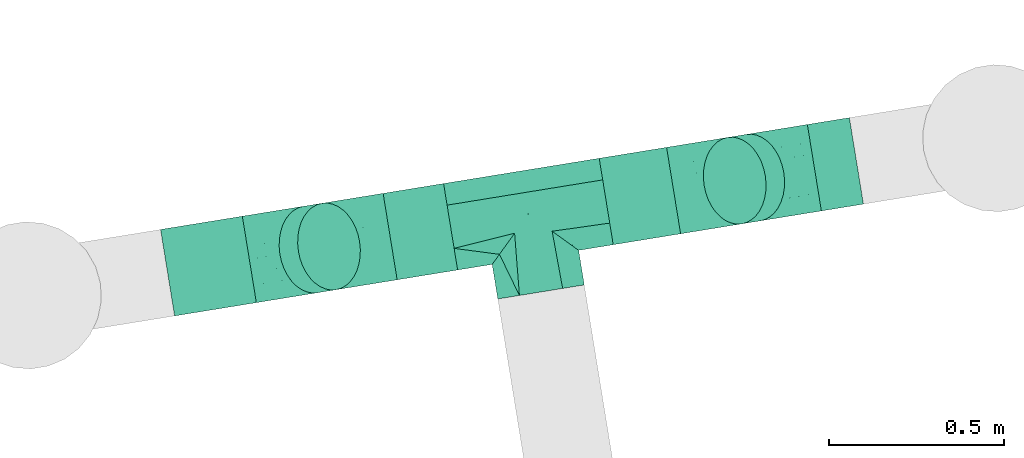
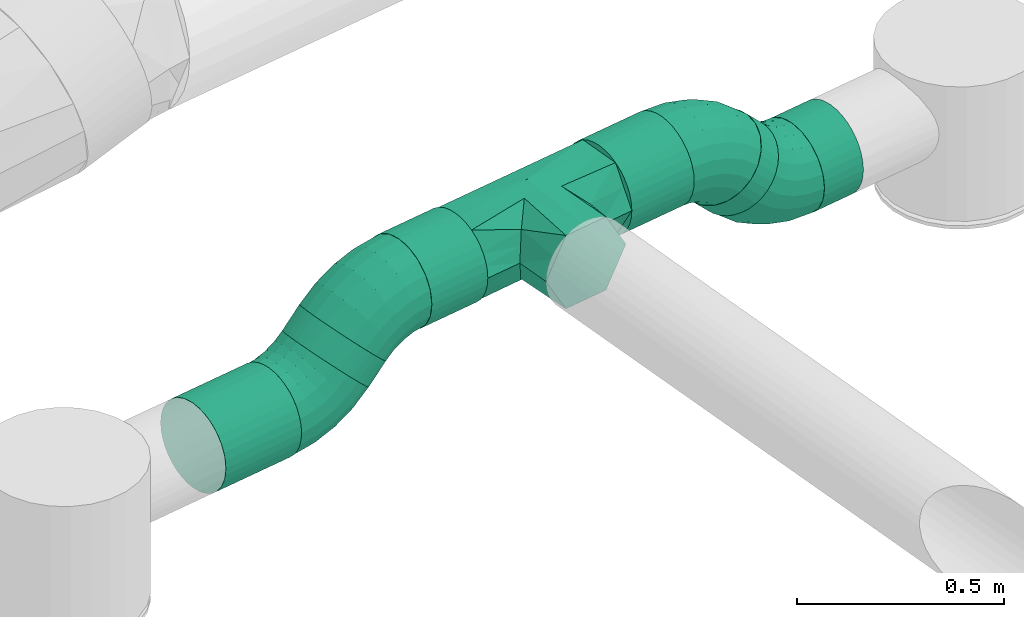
# One storey, part 24 of 39: 6 flow segments, 5 flow fittings.
"""IFC2X3 building model written with IfcOpenShell, lengths in millimetres."""

from ifc_helpers import new_model, entity, si_unit, converted_unit, derived_unit, direction, frame, frame_2d, origin, origin_with_axes, origin_2d_with_axis, place, context, subcontext, project, spatial, circle, extrude, faceted_brep, source, transform, mapped, material, type_object, element, save


model = new_model("IFC2X3")

# Units and contexts
model_context = context("Model", 3, precision=0.01, world=origin(), true_north=direction((6.12323399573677e-17, 1.0)))
plan_context = context("Plan", 3, precision=1e-05, world=origin_with_axes())
body_context = subcontext(model_context, "Body", "Model", "MODEL_VIEW")
ifc_project = project(units=[converted_unit("PLANEANGLEUNIT", "DEGREE", entity("IfcPositiveLengthMeasure", 0.0174532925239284), si_unit("PLANEANGLEUNIT", "RADIAN"), dimensions=[0, 0, 0, 0, 0, 0, 0]), si_unit("AREAUNIT", "SQUARE_METRE"), si_unit("LENGTHUNIT", "METRE", prefix="MILLI"), si_unit("MASSUNIT", "GRAM", prefix="KILO"), si_unit("POWERUNIT", "WATT"), si_unit("PRESSUREUNIT", "PASCAL", prefix="KILO"), si_unit("FORCEUNIT", "NEWTON", prefix="KILO"), si_unit("ELECTRICVOLTAGEUNIT", "VOLT"), si_unit("ELECTRICCURRENTUNIT", "AMPERE"), si_unit("THERMODYNAMICTEMPERATUREUNIT", "DEGREE_CELSIUS"), si_unit("TIMEUNIT", "SECOND"), si_unit("VOLUMEUNIT", "CUBIC_METRE"), derived_unit("LINEARVELOCITYUNIT", [(si_unit("LENGTHUNIT", "METRE"), 1), (si_unit("TIMEUNIT", "SECOND"), -1)]), derived_unit("VOLUMETRICFLOWRATEUNIT", [(si_unit("VOLUMEUNIT", "CUBIC_METRE"), 1), (si_unit("TIMEUNIT", "SECOND"), -1)]), derived_unit("THERMALTRANSMITTANCEUNIT", [(si_unit("POWERUNIT", "WATT"), 1), (si_unit("THERMODYNAMICTEMPERATUREUNIT", "KELVIN"), -1), (si_unit("AREAUNIT", "SQUARE_METRE"), -1)]), derived_unit("SOUNDPRESSUREUNIT", [(si_unit("PRESSUREUNIT", "PASCAL"), 1)])], contexts=[model_context, plan_context])

# Site, building, storey
site_placement = place(None, frame((-0.00071070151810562, 0.00438415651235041, 0.0), z_axis=(0.0, 0.0, 1.0), x_axis=(-0.160236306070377, 0.987078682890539, 0.0)))
site = spatial("IfcSite", under=ifc_project, at=site_placement, Name="Default", CompositionType="ELEMENT")
building_placement = place(site_placement, origin_with_axes())
building = spatial("IfcBuilding", under=site, at=building_placement, CompositionType="ELEMENT")
storey_placement = place(building_placement, frame((0.0, 0.0, 50999.9999999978), z_axis=(0.0, 0.0, 1.0), x_axis=(1.0, 0.0, 0.0)))
storey = spatial("IfcBuildingStorey", under=building, at=storey_placement, Name="Nivå D", CompositionType="ELEMENT", Elevation=50999.9999999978)

# Flow fittings
ifc_material = material(Name="<Unnamed>")
duct_fitting_type_1 = type_object("IfcDuctFittingType", Name="magicirc_tee_centric_90_1:magicirc_tee_centric_90_001", PredefinedType="NOTDEFINED", material=ifc_material)
shared_shape_1 = source(origin(), body_context, "Body", "Brep", [
    faceted_brep([(-225.0, -125.0, 0.0), (-225.0, -109.375, 27.0632938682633), (-225.0, -93.7499999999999, 54.1265877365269), (-225.0, -62.5000000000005, 108.253175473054), (-225.0, 0.0, 108.253175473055), (-225.0, 62.4999999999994, 108.253175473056), (-225.0, 93.75, 54.1265877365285), (-225.0, 125.0, 0.0), (-225.0, 93.7500000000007, -54.1265877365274), (-225.0, 62.5000000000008, -108.253175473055), (-225.0, 0.0, -108.253175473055), (-225.0, -62.4999999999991, -108.253175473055), (-225.0, -93.7499999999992, -54.1265877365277), (225.0, 62.4999999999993, -108.253175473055), (225.0, 93.7499999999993, -54.1265877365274), (225.0, 125.0, 0.0), (225.0, 99.1118287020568, 44.8396280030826), (225.0, 62.499999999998, 108.253175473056), (225.0, 0.0, 108.253175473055), (225.0, -62.5000000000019, 108.253175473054), (225.0, -93.7500000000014, 54.1265877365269), (225.0, -125.0, 0.0), (225.0, -109.375000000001, -27.063293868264), (225.0, -93.7500000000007, -54.1265877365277), (225.0, -62.5000000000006, -108.253175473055), (225.0, 0.0, -108.253175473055), (125.0, -125.0, 0.0), (-125.0, -125.0, 0.0), (108.218707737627, -108.218707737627, 62.5596618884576), (-112.494430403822, -112.494430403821, 37.5074249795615), (-99.9888608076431, -99.9888608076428, 75.0148499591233), (-47.5890111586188, -47.5890111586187, 115.586703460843), (59.0209382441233, -59.0209382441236, 110.188605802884), (0.0, 0.0, 125.0), (47.5890111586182, -47.5890111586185, -115.586703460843), (0.0, 0.0, -125.0), (-108.218707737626, -108.218707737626, -62.559661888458), (-59.0209382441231, -59.0209382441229, -110.188605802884), (112.494430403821, -112.494430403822, -37.5074249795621), (99.9888608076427, -99.9888608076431, -75.0148499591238), (62.5000000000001, -225.0, -108.253175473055), (93.75, -225.0, -54.1265877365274), (125.0, -225.0, 0.0), (93.7499999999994, -225.0, 54.1265877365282), (62.4999999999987, -225.0, 108.253175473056), (0.0, -225.0, 108.253175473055), (-62.5000000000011, -225.0, 108.253175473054), (-93.7500000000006, -225.0, 54.1265877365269), (-125.0, -225.0, 0.0), (-93.7499999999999, -225.0, -54.1265877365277), (-62.4999999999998, -225.0, -108.253175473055), (0.0, -225.0, -108.253175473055)], [[[0, 1, 2, 3, 4, 5, 6, 7, 8, 9, 10, 11, 12]], [[13, 14, 15, 16, 17, 18, 19, 20, 21, 22, 23, 24, 25]], [[21, 20, 26]], [[27, 1, 0]], [[28, 20, 19]], [[29, 2, 1]], [[29, 30, 2]], [[27, 29, 1]], [[31, 3, 30]], [[32, 18, 33]], [[6, 5, 17, 16, 15, 7]], [[26, 20, 28]], [[19, 32, 28]], [[32, 19, 18]], [[33, 18, 17]], [[4, 3, 31]], [[33, 5, 4]], [[5, 33, 17]], [[4, 31, 33]], [[30, 3, 2]], [[7, 15, 14, 13, 9, 8]], [[34, 25, 24]], [[35, 25, 34]], [[9, 35, 10]], [[27, 12, 36]], [[13, 35, 9]], [[10, 37, 11]], [[37, 10, 35]], [[35, 13, 25]], [[26, 38, 22]], [[38, 39, 23]], [[39, 24, 23]], [[11, 36, 12]], [[11, 37, 36]], [[0, 12, 27]], [[26, 22, 21]], [[38, 23, 22]], [[39, 34, 24]], [[40, 41, 42, 43, 44, 45, 46, 47, 48, 49, 50, 51]], [[47, 30, 29, 27]], [[47, 46, 30]], [[28, 44, 43]], [[45, 32, 33]], [[31, 30, 46]], [[31, 46, 45]], [[32, 45, 44]], [[43, 42, 26]], [[43, 26, 28]], [[47, 27, 48]], [[45, 33, 31]], [[28, 32, 44]], [[41, 39, 38, 26]], [[41, 40, 39]], [[36, 50, 49]], [[51, 37, 35]], [[34, 39, 40]], [[34, 40, 51]], [[37, 51, 50]], [[49, 48, 27]], [[49, 27, 36]], [[41, 26, 42]], [[51, 35, 34]], [[36, 37, 50]]]),
])
flow_fitting_placement = place(storey_placement, frame((777569.449260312, -600012.580498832, 3310.0), z_axis=(0.0, 0.0, 1.0), x_axis=(0.0, -1.0, 0.0)))
element("IfcFlowFitting", 1, at=flow_fitting_placement, inside=storey, type_object=duct_fitting_type_1, material=ifc_material, Name="magicirc_tee_centric_90_1:magicirc_tee_centric_90_001", ObjectType="magicirc_tee_centric_90_1:magicirc_tee_centric_90_001", context=body_context, shape_type="MappedRepresentation", body=[
    mapped(shared_shape_1, transform((0.0, 0.0, 0.0), scale=1.0)),
])
duct_fitting_type_2 = type_object("IfcDuctFittingType", Name="magicirc_elbow_full_radius_1:magicirc_elbow_full_radius_001", PredefinedType="NOTDEFINED", material=ifc_material)
shared_shape_2 = source(origin(), body_context, "Body", "Brep", [
    faceted_brep([(-30.3945198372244, -117.794480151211, 0.0), (-31.5880698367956, -111.79409910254, 38.6271242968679), (-103.553390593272, -118.882064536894, 38.6271242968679), (-103.553390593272, -125.0, 0.0), (-35.0518868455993, -94.3803150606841, 73.4731565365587), (-103.553390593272, -101.127124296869, 73.4731565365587), (-40.4469083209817, -67.2577105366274, 101.127124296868), (-103.553390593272, -73.4731565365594, 101.127124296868), (-47.2450319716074, -33.0812350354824, 118.882064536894), (-103.553390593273, -38.6271242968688, 118.882064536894), (-54.7808100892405, 4.80367989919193, 125.0), (-103.553390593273, 0.0, 125.0), (-62.3165882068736, 42.6885948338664, 118.882064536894), (-103.553390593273, 38.6271242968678, 118.882064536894), (-69.1147118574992, 76.8650703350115, 101.127124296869), (-103.553390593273, 73.4731565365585, 101.127124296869), (-74.5097333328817, 103.987674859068, 73.4731565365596), (-103.553390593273, 101.127124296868, 73.4731565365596), (-77.9735503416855, 121.401458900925, 38.6271242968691), (-103.553390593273, 118.882064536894, 38.6271242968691), (-79.1671003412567, 127.401839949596, 0.0), (-103.553390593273, 125.0, 0.0), (-77.9735503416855, 121.401458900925, -38.6271242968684), (-103.553390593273, 118.882064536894, -38.6271242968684), (-74.5097333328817, 103.987674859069, -73.473156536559), (-103.553390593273, 101.127124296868, -73.473156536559), (-69.1147118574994, 76.8650703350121, -101.127124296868), (-103.553390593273, 73.4731565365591, -101.127124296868), (-62.3165882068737, 42.6885948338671, -118.882064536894), (-103.553390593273, 38.6271242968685, -118.882064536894), (-54.7808100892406, 4.80367989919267, -125.0), (-103.553390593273, 0.0, -125.0), (-47.2450319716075, -33.0812350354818, -118.882064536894), (-103.553390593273, -38.6271242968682, -118.882064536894), (-40.4469083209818, -67.2577105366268, -101.127124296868), (-103.553390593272, -73.4731565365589, -101.127124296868), (-35.0518868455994, -94.3803150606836, -73.4731565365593), (-103.553390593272, -101.127124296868, -73.4731565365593), (-31.5880698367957, -111.79409910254, -38.6271242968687), (-103.553390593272, -118.882064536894, -38.6271242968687), (39.952896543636, -96.4548246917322, 0.0), (37.6116640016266, -90.8025893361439, 38.6271242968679), (30.8171425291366, -74.3991634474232, 73.4731565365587), (20.2344272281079, -48.8502286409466, 101.127124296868), (6.89942800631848, -16.656692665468, 118.882064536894), (-7.88253250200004, 19.030116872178, 125.0), (-22.6644930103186, 54.7169264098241, 118.882064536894), (-35.9994922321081, 86.9104623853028, 101.127124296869), (-46.5822075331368, 112.45939719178, 73.4731565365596), (-53.376729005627, 128.862823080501, 38.6271242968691), (-55.7179615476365, 134.515058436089, 0.0), (-53.3767290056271, 128.862823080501, -38.6271242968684), (-46.582207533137, 112.45939719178, -73.473156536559), (-35.9994922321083, 86.9104623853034, -101.127124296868), (-22.6644930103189, 54.7169264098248, -118.882064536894), (-7.88253250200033, 19.0301168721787, -125.0), (6.89942800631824, -16.6566926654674, -118.882064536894), (20.2344272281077, -48.8502286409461, -101.127124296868), (30.8171425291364, -74.3991634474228, -73.4731565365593), (37.6116640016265, -90.8025893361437, -38.6271242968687), (104.785446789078, -61.801104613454, 0.0), (101.386503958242, -56.7142271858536, 38.6271242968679), (91.5223876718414, -41.9515339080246, 73.4731565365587), (76.1586663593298, -18.9581000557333, 101.127124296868), (56.7992481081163, 10.0153168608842, 118.882064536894), (35.3391676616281, 42.1325969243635, 125.0), (13.8790872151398, 74.2498769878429, 118.882064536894), (-5.48033103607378, 103.22329390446, 101.127124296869), (-20.8440523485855, 126.216727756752, 73.4731565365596), (-30.7081686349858, 140.979421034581, 38.6271242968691), (-34.1071114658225, 146.066298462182, 0.0), (-30.7081686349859, 140.979421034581, -38.6271242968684), (-20.8440523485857, 126.216727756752, -73.473156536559), (-5.48033103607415, 103.223293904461, -101.127124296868), (13.8790872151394, 74.2498769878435, -118.882064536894), (35.3391676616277, 42.1325969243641, -125.0), (56.799248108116, 10.0153168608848, -118.882064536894), (76.1586663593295, -18.9581000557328, -101.127124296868), (91.5223876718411, -41.9515339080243, -73.4731565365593), (101.386503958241, -56.7142271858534, -38.6271242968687), (161.611652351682, -15.1650429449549, 0.0), (157.285618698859, -10.8390092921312, 38.6271242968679), (144.730980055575, 1.7156293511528, 73.4731565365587), (125.176671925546, 21.2699374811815, 101.127124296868), (100.536806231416, 45.9098031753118, 118.882064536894), (73.2233047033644, 73.223304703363, 125.0), (45.9098031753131, 100.536806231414, 118.882064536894), (21.2699374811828, 125.176671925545, 101.127124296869), (1.71562935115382, 144.730980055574, 73.4731565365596), (-10.8390092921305, 157.285618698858, 38.6271242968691), (-15.1650429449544, 161.611652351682, 0.0), (-10.8390092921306, 157.285618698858, -38.6271242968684), (1.71562935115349, 144.730980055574, -73.473156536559), (21.2699374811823, 125.176671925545, -101.127124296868), (45.9098031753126, 100.536806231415, -118.882064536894), (73.2233047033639, 73.2233047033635, -125.0), (100.536806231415, 45.9098031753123, -118.882064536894), (125.176671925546, 21.269937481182, -101.127124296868), (144.730980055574, 1.71562935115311, -73.4731565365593), (157.285618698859, -10.8390092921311, -38.6271242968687)], [[[0, 1, 2, 3]], [[1, 4, 5, 2]], [[4, 6, 7, 5]], [[6, 8, 9, 7]], [[8, 10, 11, 9]], [[10, 12, 13, 11]], [[12, 14, 15, 13]], [[14, 16, 17, 15]], [[16, 18, 19, 17]], [[18, 20, 21, 19]], [[20, 22, 23, 21]], [[22, 24, 25, 23]], [[24, 26, 27, 25]], [[26, 28, 29, 27]], [[28, 30, 31, 29]], [[30, 32, 33, 31]], [[32, 34, 35, 33]], [[34, 36, 37, 35]], [[36, 38, 39, 37]], [[38, 0, 3, 39]], [[40, 41, 1, 0]], [[41, 42, 4, 1]], [[42, 43, 6, 4]], [[43, 44, 8, 6]], [[44, 45, 10, 8]], [[45, 46, 12, 10]], [[46, 47, 14, 12]], [[47, 48, 16, 14]], [[48, 49, 18, 16]], [[49, 50, 20, 18]], [[50, 51, 22, 20]], [[51, 52, 24, 22]], [[52, 53, 26, 24]], [[53, 54, 28, 26]], [[54, 55, 30, 28]], [[55, 56, 32, 30]], [[56, 57, 34, 32]], [[57, 58, 36, 34]], [[58, 59, 38, 36]], [[59, 40, 0, 38]], [[60, 61, 41, 40]], [[61, 62, 42, 41]], [[62, 63, 43, 42]], [[63, 64, 44, 43]], [[64, 65, 45, 44]], [[65, 66, 46, 45]], [[66, 67, 47, 46]], [[67, 68, 48, 47]], [[68, 69, 49, 48]], [[69, 70, 50, 49]], [[70, 71, 51, 50]], [[71, 72, 52, 51]], [[72, 73, 53, 52]], [[73, 74, 54, 53]], [[74, 75, 55, 54]], [[75, 76, 56, 55]], [[76, 77, 57, 56]], [[77, 78, 58, 57]], [[78, 79, 59, 58]], [[79, 60, 40, 59]], [[80, 81, 61, 60]], [[81, 82, 62, 61]], [[82, 83, 63, 62]], [[83, 84, 64, 63]], [[84, 85, 65, 64]], [[85, 86, 66, 65]], [[86, 87, 67, 66]], [[87, 88, 68, 67]], [[88, 89, 69, 68]], [[89, 90, 70, 69]], [[90, 91, 71, 70]], [[91, 92, 72, 71]], [[92, 93, 73, 72]], [[93, 94, 74, 73]], [[94, 95, 75, 74]], [[95, 96, 76, 75]], [[96, 97, 77, 76]], [[97, 98, 78, 77]], [[98, 99, 79, 78]], [[99, 80, 60, 79]], [[3, 2, 5, 7, 9, 11, 13, 15, 17, 19, 21, 23, 25, 27, 29, 31, 33, 35, 37, 39]], [[99, 98, 97, 96, 95, 94, 93, 92, 91, 90, 89, 88, 87, 86, 85, 84, 83, 82, 81, 80]]]),
])
for number, where, z_axis, x_axis, name in (
    (2, (777569.449260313, -600535.985577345, 3310.0), (1.0, 0.0, 0.0), (0.0, -1.0, 0.0), "magicirc_elbow_full_radius_1:magicirc_elbow_full_radius_001"),
    (3, (777569.449260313, -600735.985577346, 3110.0), (1.0, 0.0, 0.0), (0.0, 1.0, 0.0), "magicirc_elbow_full_radius_1:magicirc_elbow_full_radius_001"),
):
    element("IfcFlowFitting", number, at=place(storey_placement, frame(where, z_axis=z_axis, x_axis=x_axis)), inside=storey, type_object=duct_fitting_type_2, material=ifc_material, Name=name, ObjectType="magicirc_elbow_full_radius_1:magicirc_elbow_full_radius_001", context=body_context, shape_type="MappedRepresentation", body=[
        mapped(shared_shape_2, transform((0.0, 0.0, 0.0), scale=1.0)),
    ])
duct_fitting_type_3 = type_object("IfcDuctFittingType", Name="magicirc_elbow_full_radius_1:magicirc_elbow_full_radius_001", PredefinedType="NOTDEFINED", material=ifc_material)
shared_shape_3 = source(origin(), body_context, "Body", "Brep", [
    faceted_brep([(-30.3945198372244, 117.794480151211, 0.0), (-31.5880698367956, 111.79409910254, -38.6271242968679), (-103.553390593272, 118.882064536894, -38.6271242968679), (-103.553390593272, 125.0, 0.0), (-35.0518868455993, 94.3803150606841, -73.4731565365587), (-103.553390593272, 101.127124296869, -73.4731565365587), (-40.4469083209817, 67.2577105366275, -101.127124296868), (-103.553390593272, 73.4731565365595, -101.127124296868), (-47.2450319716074, 33.0812350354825, -118.882064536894), (-103.553390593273, 38.6271242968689, -118.882064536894), (-54.7808100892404, -4.80367989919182, -125.0), (-103.553390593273, 0.0, -125.0), (-62.3165882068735, -42.6885948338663, -118.882064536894), (-103.553390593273, -38.6271242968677, -118.882064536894), (-69.1147118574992, -76.8650703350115, -101.127124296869), (-103.553390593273, -73.4731565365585, -101.127124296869), (-74.5097333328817, -103.987674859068, -73.4731565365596), (-103.553390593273, -101.127124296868, -73.4731565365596), (-77.9735503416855, -121.401458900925, -38.6271242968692), (-103.553390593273, -118.882064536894, -38.6271242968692), (-79.1671003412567, -127.401839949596, 0.0), (-103.553390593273, -125.0, 0.0), (-77.9735503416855, -121.401458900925, 38.6271242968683), (-103.553390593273, -118.882064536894, 38.6271242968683), (-74.5097333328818, -103.987674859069, 73.4731565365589), (-103.553390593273, -101.127124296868, 73.4731565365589), (-69.1147118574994, -76.8650703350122, 101.127124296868), (-103.553390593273, -73.4731565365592, 101.127124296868), (-62.3165882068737, -42.6885948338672, 118.882064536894), (-103.553390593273, -38.6271242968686, 118.882064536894), (-54.7808100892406, -4.80367989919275, 125.0), (-103.553390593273, 0.0, 125.0), (-47.2450319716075, 33.0812350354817, 118.882064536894), (-103.553390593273, 38.6271242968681, 118.882064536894), (-40.4469083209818, 67.2577105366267, 101.127124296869), (-103.553390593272, 73.4731565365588, 101.127124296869), (-35.0518868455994, 94.3803150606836, 73.4731565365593), (-103.553390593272, 101.127124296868, 73.4731565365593), (-31.5880698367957, 111.79409910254, 38.6271242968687), (-103.553390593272, 118.882064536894, 38.6271242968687), (39.952896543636, 96.4548246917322, 0.0), (37.6116640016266, 90.8025893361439, -38.6271242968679), (30.8171425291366, 74.3991634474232, -73.4731565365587), (20.2344272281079, 48.8502286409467, -101.127124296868), (6.89942800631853, 16.6566926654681, -118.882064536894), (-7.88253250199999, -19.0301168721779, -125.0), (-22.6644930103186, -54.716926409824, -118.882064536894), (-35.9994922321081, -86.9104623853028, -101.127124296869), (-46.5822075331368, -112.45939719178, -73.4731565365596), (-53.376729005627, -128.862823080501, -38.6271242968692), (-55.7179615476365, -134.515058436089, 0.0), (-53.3767290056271, -128.862823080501, 38.6271242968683), (-46.582207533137, -112.45939719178, 73.4731565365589), (-35.9994922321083, -86.9104623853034, 101.127124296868), (-22.6644930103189, -54.7169264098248, 118.882064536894), (-7.88253250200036, -19.0301168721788, 125.0), (6.89942800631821, 16.6566926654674, 118.882064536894), (20.2344272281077, 48.850228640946, 101.127124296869), (30.8171425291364, 74.3991634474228, 73.4731565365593), (37.6116640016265, 90.8025893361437, 38.6271242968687), (104.785446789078, 61.801104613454, 0.0), (101.386503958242, 56.7142271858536, -38.6271242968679), (91.5223876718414, 41.9515339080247, -73.4731565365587), (76.1586663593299, 18.9581000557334, -101.127124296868), (56.7992481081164, -10.0153168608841, -118.882064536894), (35.3391676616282, -42.1325969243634, -125.0), (13.8790872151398, -74.2498769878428, -118.882064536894), (-5.48033103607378, -103.22329390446, -101.127124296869), (-20.8440523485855, -126.216727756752, -73.4731565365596), (-30.7081686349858, -140.979421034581, -38.6271242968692), (-34.1071114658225, -146.066298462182, 0.0), (-30.7081686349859, -140.979421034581, 38.6271242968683), (-20.8440523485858, -126.216727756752, 73.4731565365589), (-5.48033103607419, -103.223293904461, 101.127124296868), (13.8790872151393, -74.2498769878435, 118.882064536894), (35.3391676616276, -42.1325969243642, 125.0), (56.799248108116, -10.0153168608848, 118.882064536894), (76.1586663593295, 18.9581000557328, 101.127124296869), (91.5223876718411, 41.9515339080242, 73.4731565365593), (101.386503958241, 56.7142271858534, 38.6271242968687), (161.611652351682, 15.1650429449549, 0.0), (157.285618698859, 10.8390092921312, -38.6271242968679), (144.730980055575, -1.71562935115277, -73.4731565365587), (125.176671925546, -21.2699374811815, -101.127124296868), (100.536806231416, -45.9098031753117, -118.882064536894), (73.2233047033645, -73.2233047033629, -125.0), (45.9098031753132, -100.536806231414, -118.882064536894), (21.2699374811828, -125.176671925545, -101.127124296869), (1.71562935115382, -144.730980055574, -73.4731565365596), (-10.8390092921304, -157.285618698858, -38.6271242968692), (-15.1650429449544, -161.611652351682, 0.0), (-10.8390092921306, -157.285618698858, 38.6271242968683), (1.71562935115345, -144.730980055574, 73.4731565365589), (21.2699374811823, -125.176671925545, 101.127124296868), (45.9098031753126, -100.536806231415, 118.882064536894), (73.2233047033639, -73.2233047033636, 125.0), (100.536806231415, -45.9098031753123, 118.882064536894), (125.176671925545, -21.269937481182, 101.127124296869), (144.730980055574, -1.71562935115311, 73.4731565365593), (157.285618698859, 10.8390092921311, 38.6271242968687)], [[[0, 1, 2, 3]], [[1, 4, 5, 2]], [[4, 6, 7, 5]], [[6, 8, 9, 7]], [[8, 10, 11, 9]], [[10, 12, 13, 11]], [[12, 14, 15, 13]], [[14, 16, 17, 15]], [[16, 18, 19, 17]], [[18, 20, 21, 19]], [[20, 22, 23, 21]], [[22, 24, 25, 23]], [[24, 26, 27, 25]], [[26, 28, 29, 27]], [[28, 30, 31, 29]], [[30, 32, 33, 31]], [[32, 34, 35, 33]], [[34, 36, 37, 35]], [[36, 38, 39, 37]], [[38, 0, 3, 39]], [[40, 41, 1, 0]], [[41, 42, 4, 1]], [[42, 43, 6, 4]], [[43, 44, 8, 6]], [[44, 45, 10, 8]], [[45, 46, 12, 10]], [[46, 47, 14, 12]], [[47, 48, 16, 14]], [[48, 49, 18, 16]], [[49, 50, 20, 18]], [[50, 51, 22, 20]], [[51, 52, 24, 22]], [[52, 53, 26, 24]], [[53, 54, 28, 26]], [[54, 55, 30, 28]], [[55, 56, 32, 30]], [[56, 57, 34, 32]], [[57, 58, 36, 34]], [[58, 59, 38, 36]], [[59, 40, 0, 38]], [[60, 61, 41, 40]], [[61, 62, 42, 41]], [[62, 63, 43, 42]], [[63, 64, 44, 43]], [[64, 65, 45, 44]], [[65, 66, 46, 45]], [[66, 67, 47, 46]], [[67, 68, 48, 47]], [[68, 69, 49, 48]], [[69, 70, 50, 49]], [[70, 71, 51, 50]], [[71, 72, 52, 51]], [[72, 73, 53, 52]], [[73, 74, 54, 53]], [[74, 75, 55, 54]], [[75, 76, 56, 55]], [[76, 77, 57, 56]], [[77, 78, 58, 57]], [[78, 79, 59, 58]], [[79, 60, 40, 59]], [[80, 81, 61, 60]], [[81, 82, 62, 61]], [[82, 83, 63, 62]], [[83, 84, 64, 63]], [[84, 85, 65, 64]], [[85, 86, 66, 65]], [[86, 87, 67, 66]], [[87, 88, 68, 67]], [[88, 89, 69, 68]], [[89, 90, 70, 69]], [[90, 91, 71, 70]], [[91, 92, 72, 71]], [[92, 93, 73, 72]], [[93, 94, 74, 73]], [[94, 95, 75, 74]], [[95, 96, 76, 75]], [[96, 97, 77, 76]], [[97, 98, 78, 77]], [[98, 99, 79, 78]], [[99, 80, 60, 79]], [[3, 2, 5, 7, 9, 11, 13, 15, 17, 19, 21, 23, 25, 27, 29, 31, 33, 35, 37, 39]], [[99, 98, 97, 96, 95, 94, 93, 92, 91, 90, 89, 88, 87, 86, 85, 84, 83, 82, 81, 80]]]),
])
for number, where, z_axis, x_axis, name in (
    (4, (777569.449260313, -599509.175420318, 3310.0), (1.0, 0.0, 0.0), (0.0, 1.0, 0.0), "magicirc_elbow_full_radius_1:magicirc_elbow_full_radius_001"),
    (5, (777569.449260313, -599309.175420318, 3110.0), (1.0, 0.0, 0.0), (0.0, -1.0, 0.0), "magicirc_elbow_full_radius_1:magicirc_elbow_full_radius_001"),
):
    element("IfcFlowFitting", number, at=place(storey_placement, frame(where, z_axis=z_axis, x_axis=x_axis)), inside=storey, type_object=duct_fitting_type_3, material=ifc_material, Name=name, ObjectType="magicirc_elbow_full_radius_1:magicirc_elbow_full_radius_001", context=body_context, shape_type="MappedRepresentation", body=[
        mapped(shared_shape_3, transform((0.0, 0.0, 0.0), scale=1.0)),
    ])

# Flow segments
duct_segment_type = type_object("IfcDuctSegmentType", Name="Round Duct:KK001T - Spiro kanaler, Forsinket stål", PredefinedType="NOTDEFINED")
flow_segment_1_placement = place(storey_placement, origin_with_axes())
element("IfcFlowSegment", 6, at=flow_segment_1_placement, inside=storey, type_object=duct_segment_type, Name="Round Duct:KK001T - Spiro kanaler, Forsinket stål", ObjectType="Round Duct:KK001T - Spiro kanaler, Forsinket stål", context=body_context, shape_type="SweptSolid", body=[
    extrude(circle(Radius=125.0, at=origin_2d_with_axis()), frame((777569.449260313, -600432.432186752, 3310.0), z_axis=(0.0, 1.0, 0.0), x_axis=(1.0, 0.0, 0.0)), (0.0, 0.0, 1.0), 194.851687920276),
])
flow_segment_2_placement = place(storey_placement, origin_with_axes())
element("IfcFlowSegment", 7, at=flow_segment_2_placement, inside=storey, type_object=duct_segment_type, Name="Round Duct:KK001T - Spiro kanaler, Forsinket stål", ObjectType="Round Duct:KK001T - Spiro kanaler, Forsinket stål", context=body_context, shape_type="SweptSolid", body=[
    extrude(circle(Radius=125.0, at=frame_2d((0.0, -8.66293703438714e-12), x_axis=(1.0, 0.0))), frame((777569.449260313, -600961.085577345, 3110.0), z_axis=(0.0, 1.0, 0.0), x_axis=(1.0, 0.0, 0.0)), (0.0, 0.0, 1.0), 121.54660940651),
])
flow_segment_3_placement = place(storey_placement, origin_with_axes())
element("IfcFlowSegment", 8, at=flow_segment_3_placement, inside=storey, type_object=duct_segment_type, Name="Round Duct:KK001T - Spiro kanaler, Forsinket stål", ObjectType="Round Duct:KK001T - Spiro kanaler, Forsinket stål", context=body_context, shape_type="SweptSolid", body=[
    extrude(circle(Radius=125.0, at=frame_2d((2.04390155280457e-23, -9.80099443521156e-11), x_axis=(1.0, 0.0))), frame((777569.449260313, -600662.762272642, 3183.22330470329), z_axis=(0.0, 0.707106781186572, 0.707106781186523), x_axis=(-1.0, 0.0, 0.0)), (0.0, 0.0, 1.0), 75.7359312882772),
])
flow_segment_4_placement = place(storey_placement, origin_with_axes())
element("IfcFlowSegment", 9, at=flow_segment_4_placement, inside=storey, type_object=duct_segment_type, Name="Round Duct:KK001T - Spiro kanaler, Forsinket stål", ObjectType="Round Duct:KK001T - Spiro kanaler, Forsinket stål", context=body_context, shape_type="SweptSolid", body=[
    extrude(circle(Radius=125.0, at=frame_2d((0.0, -8.66293703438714e-12), x_axis=(1.0, 0.0))), frame((777569.449260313, -599205.622029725, 3110.0), z_axis=(0.0, 1.0, 0.0), x_axis=(-1.0, 0.0, 0.0)), (0.0, 0.0, 1.0), 236.446609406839),
])
flow_segment_5_placement = place(storey_placement, origin_with_axes())
element("IfcFlowSegment", 10, at=flow_segment_5_placement, inside=storey, type_object=duct_segment_type, Name="Round Duct:KK001T - Spiro kanaler, Forsinket stål", ObjectType="Round Duct:KK001T - Spiro kanaler, Forsinket stål", context=body_context, shape_type="SweptSolid", body=[
    extrude(circle(Radius=125.0, at=frame_2d((0.0, 6.12562152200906e-12), x_axis=(1.0, 0.0))), frame((777569.449260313, -599435.952115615, 3236.77669529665), z_axis=(0.0, 0.707106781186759, -0.707106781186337), x_axis=(1.0, 0.0, 0.0)), (0.0, 0.0, 1.0), 75.7359312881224),
])
flow_segment_6_placement = place(storey_placement, origin_with_axes())
element("IfcFlowSegment", 11, at=flow_segment_6_placement, inside=storey, type_object=duct_segment_type, Name="Round Duct:KK001T - Spiro kanaler, Forsinket stål", ObjectType="Round Duct:KK001T - Spiro kanaler, Forsinket stål", context=body_context, shape_type="SweptSolid", body=[
    extrude(circle(Radius=125.0, at=frame_2d((0.0, -8.66293703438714e-12), x_axis=(1.0, 0.0))), frame((777569.449260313, -599787.580498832, 3310.0), z_axis=(0.0, 1.0, 0.0), x_axis=(-1.0, 0.0, 0.0)), (0.0, 0.0, 1.0), 174.851687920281),
])

save(model, "model.ifc")
